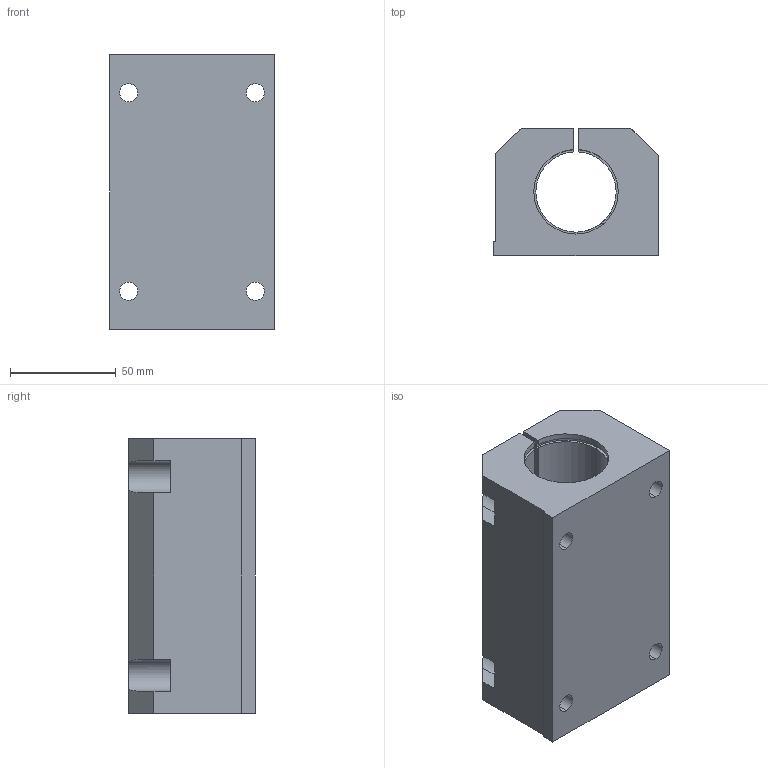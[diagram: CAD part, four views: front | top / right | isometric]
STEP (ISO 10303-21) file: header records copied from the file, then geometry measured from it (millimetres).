
FILE_DESCRIPTION (( 'STEP AP214' ), '1' );
FILE_NAME ('KTGE32-25.step', '2020-03-04T13:27:30', ( '' ), ( '' ), 'SwSTEP 2.0', 'SolidWorks 2019', '' );
FILE_SCHEMA (( 'AUTOMOTIVE_DESIGN' ));
Length unit declared in the file: millimetre
Products named in the file (1): KTGE32-25
Bounding box: 78 x 60 x 130 mm (x, y, z)
Volume: 387431.6 mm3; surface area: 67920.3 mm2
Topology: 1 solids, 1 shells, 92 faces, 256 edges, 166 vertices
Faces by surface type: cylinder 49, plane 37, cone 6
Entity records: 3208 total; most frequent: CARTESIAN_POINT 603, DIRECTION 516, ORIENTED_EDGE 504, EDGE_CURVE 252, AXIS2_PLACEMENT_3D 185, VERTEX_POINT 166, VECTOR 146, LINE 146
